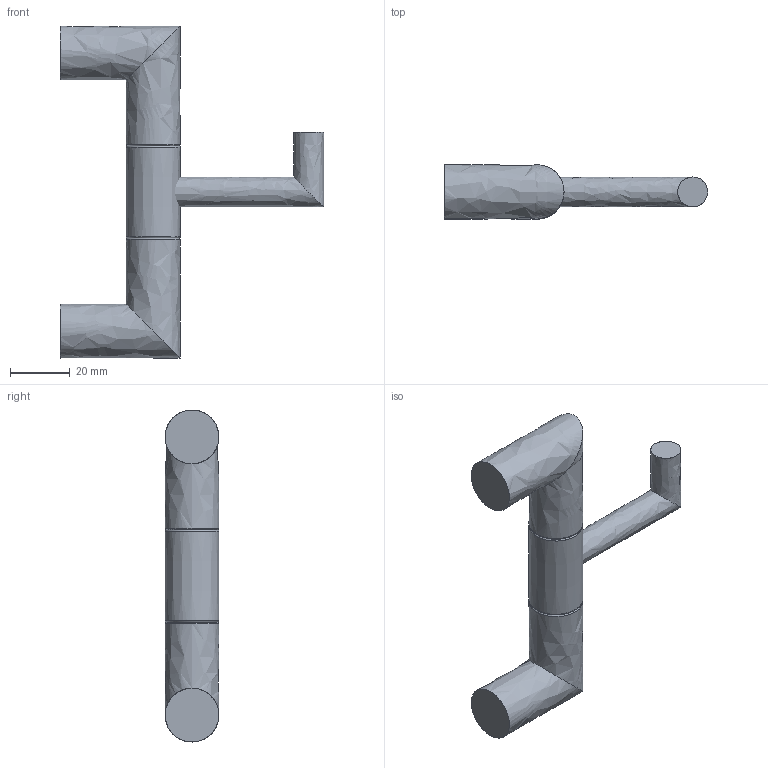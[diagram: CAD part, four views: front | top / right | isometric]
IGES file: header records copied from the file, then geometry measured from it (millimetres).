
Global section: file name: /Users/f/Desktop/I/AM243.igs; native system: Rhinoceros ( Jul 22 2010 ); preprocessor: Trout Lake IGES 012 Jul 22 2010; date: 100723.151309; units: millimetre
Bounding box: 88 x 18 x 111 mm (x, y, z)
Surface area: 12670.7 mm2 (no closed solid volume)
Topology: 0 solids, 0 shells, 19 faces, 365 edges, 359 vertices
Faces by surface type: bspline 19
